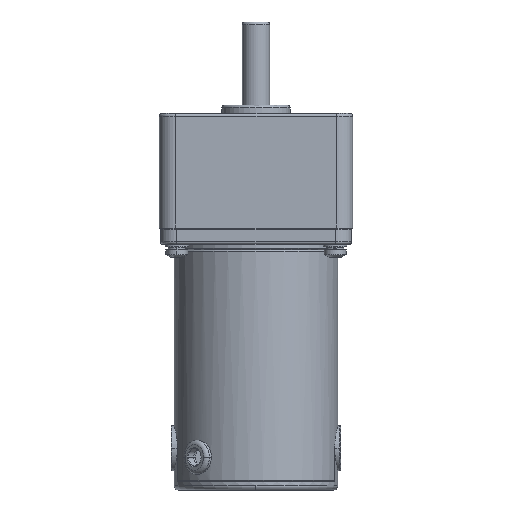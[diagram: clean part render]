
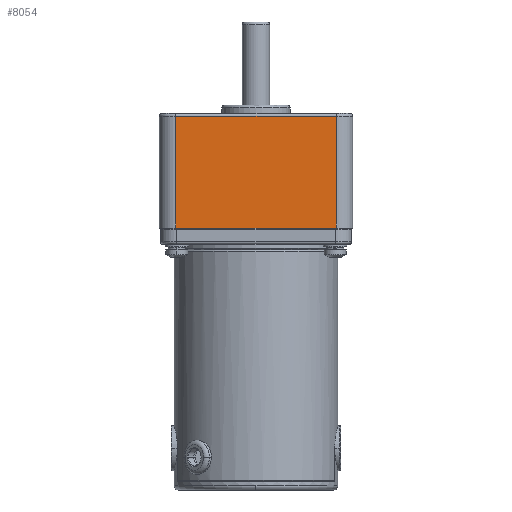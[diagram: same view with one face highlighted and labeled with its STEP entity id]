
A CAD part, front view. The second image highlights one B-rep face of the part: STEP entity #8054.
In plain terms, the highlighted planar face has unit normal (0, -1, 0).
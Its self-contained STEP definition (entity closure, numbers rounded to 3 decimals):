
#567 = CARTESIAN_POINT ( 'NONE',  ( -29.4, -35.4, 41. ) ) ;
#1065 = VERTEX_POINT ( 'NONE', #9479 ) ;
#1217 = EDGE_CURVE ( 'NONE', #4828, #6173, #2612, .T. ) ;
#1929 = DIRECTION ( 'NONE',  ( 0., 0., 1. ) ) ;
#2612 = LINE ( 'NONE', #6522, #3972 ) ;
#2924 = LINE ( 'NONE', #6838, #6383 ) ;
#3131 = DIRECTION ( 'NONE',  ( 0., 0., 1. ) ) ;
#3510 = DIRECTION ( 'NONE',  ( 1., 0., 0. ) ) ;
#3621 = DIRECTION ( 'NONE',  ( 0., 0., -1. ) ) ;
#3915 = VERTEX_POINT ( 'NONE', #567 ) ;
#3972 = VECTOR ( 'NONE', #3510, 1000. ) ;
#3993 = FACE_OUTER_BOUND ( 'NONE', #5826, .T. ) ;
#4107 = CARTESIAN_POINT ( 'NONE',  ( -29.4, -35.4, 20.5 ) ) ;
#4119 = EDGE_CURVE ( 'NONE', #4828, #3915, #5313, .T. ) ;
#4828 = VERTEX_POINT ( 'NONE', #10245 ) ;
#4944 = PLANE ( 'NONE',  #10931 ) ;
#5313 = LINE ( 'NONE', #4107, #5840 ) ;
#5609 = CARTESIAN_POINT ( 'NONE',  ( 29.4, -35.4, 41.82 ) ) ;
#5826 = EDGE_LOOP ( 'NONE', ( #6615, #12479, #6241, #10528 ) ) ;
#5840 = VECTOR ( 'NONE', #3131, 1000. ) ;
#5907 = CARTESIAN_POINT ( 'NONE',  ( 0., -35.4, 20.5 ) ) ;
#6165 = EDGE_CURVE ( 'NONE', #1065, #6173, #8496, .T. ) ;
#6173 = VERTEX_POINT ( 'NONE', #8371 ) ;
#6241 = ORIENTED_EDGE ( 'NONE', *, *, #7811, .F. ) ;
#6383 = VECTOR ( 'NONE', #8106, 1000. ) ;
#6522 = CARTESIAN_POINT ( 'NONE',  ( 0., -35.4, 0. ) ) ;
#6615 = ORIENTED_EDGE ( 'NONE', *, *, #1217, .T. ) ;
#6838 = CARTESIAN_POINT ( 'NONE',  ( 0., -35.4, 41. ) ) ;
#7033 = VECTOR ( 'NONE', #3621, 1000. ) ;
#7811 = EDGE_CURVE ( 'NONE', #3915, #1065, #2924, .T. ) ;
#8054 = ADVANCED_FACE ( 'NONE', ( #3993 ), #4944, .F. ) ;
#8106 = DIRECTION ( 'NONE',  ( 1., 0., 0. ) ) ;
#8371 = CARTESIAN_POINT ( 'NONE',  ( 29.4, -35.4, 0. ) ) ;
#8496 = LINE ( 'NONE', #5609, #7033 ) ;
#8983 = DIRECTION ( 'NONE',  ( 0., 1., 0. ) ) ;
#9479 = CARTESIAN_POINT ( 'NONE',  ( 29.4, -35.4, 41. ) ) ;
#10245 = CARTESIAN_POINT ( 'NONE',  ( -29.4, -35.4, 0. ) ) ;
#10528 = ORIENTED_EDGE ( 'NONE', *, *, #4119, .F. ) ;
#10931 = AXIS2_PLACEMENT_3D ( 'NONE', #5907, #8983, #1929 ) ;
#12479 = ORIENTED_EDGE ( 'NONE', *, *, #6165, .F. ) ;
